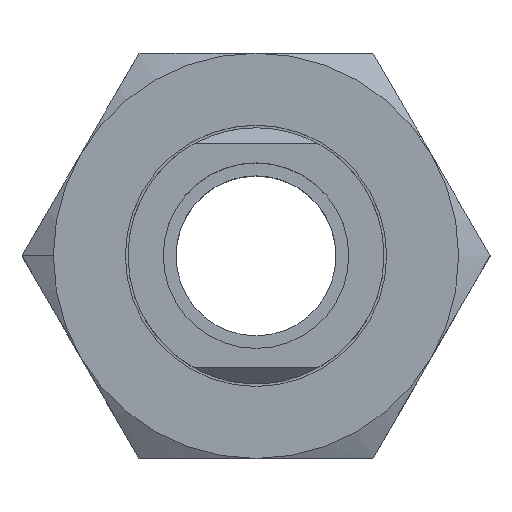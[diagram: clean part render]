
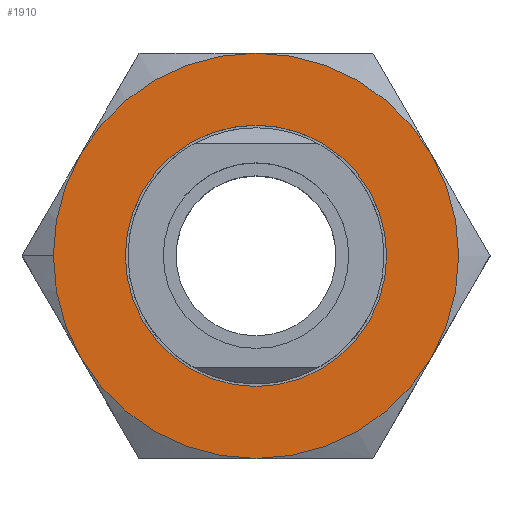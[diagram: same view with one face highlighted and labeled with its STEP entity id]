
A CAD part, top view. The second image highlights one B-rep face of the part: STEP entity #1910.
In plain terms, the highlighted planar face has unit normal (0, 0, 1).
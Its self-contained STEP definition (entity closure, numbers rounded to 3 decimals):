
#466 = DIRECTION ( 'NONE',  ( 1., 0., 0. ) ) ;
#467 = DIRECTION ( 'NONE',  ( 0., 0., 1. ) ) ;
#468 = AXIS2_PLACEMENT_3D ( 'NONE', #473, #467, #466 ) ;
#469 = CIRCLE ( 'NONE', #468, 12.25 ) ;
#473 = CARTESIAN_POINT ( 'NONE',  ( 0., 0., 9. ) ) ;
#476 = DIRECTION ( 'NONE',  ( -1., 0., 0. ) ) ;
#477 = DIRECTION ( 'NONE',  ( 0., 0., -1. ) ) ;
#478 = CARTESIAN_POINT ( 'NONE',  ( 0., 19., 9. ) ) ;
#479 = AXIS2_PLACEMENT_3D ( 'NONE', #478, #477, #476 ) ;
#481 = PLANE ( 'NONE',  #479 ) ;
#482 = FACE_OUTER_BOUND ( 'NONE', #1912, .T. ) ;
#483 = FACE_BOUND ( 'NONE', #1913, .T. ) ;
#790 = CARTESIAN_POINT ( 'NONE',  ( 12.25, 0., 9. ) ) ;
#791 = DIRECTION ( 'NONE',  ( 1., 0., 0. ) ) ;
#792 = DIRECTION ( 'NONE',  ( 0., 0., 1. ) ) ;
#793 = CARTESIAN_POINT ( 'NONE',  ( 0., 0., 9. ) ) ;
#794 = AXIS2_PLACEMENT_3D ( 'NONE', #793, #792, #791 ) ;
#795 = CIRCLE ( 'NONE', #794, 12.25 ) ;
#849 = CARTESIAN_POINT ( 'NONE',  ( -12.25, 0., 9. ) ) ;
#898 = DIRECTION ( 'NONE',  ( 1., 0., 0. ) ) ;
#899 = DIRECTION ( 'NONE',  ( 0., 0., 1. ) ) ;
#900 = CARTESIAN_POINT ( 'NONE',  ( 0., 0., 9. ) ) ;
#901 = AXIS2_PLACEMENT_3D ( 'NONE', #900, #899, #898 ) ;
#902 = CIRCLE ( 'NONE', #901, 19. ) ;
#907 = CARTESIAN_POINT ( 'NONE',  ( -19., 0., 9. ) ) ;
#908 = CARTESIAN_POINT ( 'NONE',  ( -16.454, -9.5, 9. ) ) ;
#909 = CIRCLE ( 'NONE', #966, 19. ) ;
#923 = CARTESIAN_POINT ( 'NONE',  ( 0., 19., 9. ) ) ;
#927 = CARTESIAN_POINT ( 'NONE',  ( 16.454, 9.5, 9. ) ) ;
#963 = DIRECTION ( 'NONE',  ( 1., 0., 0. ) ) ;
#964 = DIRECTION ( 'NONE',  ( 0., 0., 1. ) ) ;
#965 = CARTESIAN_POINT ( 'NONE',  ( 0., 0., 9. ) ) ;
#966 = AXIS2_PLACEMENT_3D ( 'NONE', #965, #964, #963 ) ;
#975 = CARTESIAN_POINT ( 'NONE',  ( 16.454, -9.5, 9. ) ) ;
#1000 = CARTESIAN_POINT ( 'NONE',  ( 0., -19., 9. ) ) ;
#1014 = DIRECTION ( 'NONE',  ( 1., 0., 0. ) ) ;
#1015 = DIRECTION ( 'NONE',  ( 0., 0., 1. ) ) ;
#1016 = CARTESIAN_POINT ( 'NONE',  ( 0., 0., 9. ) ) ;
#1017 = AXIS2_PLACEMENT_3D ( 'NONE', #1016, #1015, #1014 ) ;
#1028 = CIRCLE ( 'NONE', #1017, 19. ) ;
#1049 = DIRECTION ( 'NONE',  ( 1., 0., 0. ) ) ;
#1050 = DIRECTION ( 'NONE',  ( 0., 0., 1. ) ) ;
#1051 = CARTESIAN_POINT ( 'NONE',  ( 0., 0., 9. ) ) ;
#1052 = AXIS2_PLACEMENT_3D ( 'NONE', #1051, #1050, #1049 ) ;
#1053 = CIRCLE ( 'NONE', #1052, 19. ) ;
#1064 = DIRECTION ( 'NONE',  ( 1., 0., 0. ) ) ;
#1065 = DIRECTION ( 'NONE',  ( 0., 0., 1. ) ) ;
#1066 = CARTESIAN_POINT ( 'NONE',  ( 0., 0., 9. ) ) ;
#1073 = CIRCLE ( 'NONE', #1082, 19. ) ;
#1082 = AXIS2_PLACEMENT_3D ( 'NONE', #1066, #1065, #1064 ) ;
#1216 = DIRECTION ( 'NONE',  ( 1., 0., 0. ) ) ;
#1217 = DIRECTION ( 'NONE',  ( 0., 0., 1. ) ) ;
#1218 = CARTESIAN_POINT ( 'NONE',  ( 0., 0., 9. ) ) ;
#1219 = AXIS2_PLACEMENT_3D ( 'NONE', #1218, #1217, #1216 ) ;
#1224 = CIRCLE ( 'NONE', #1219, 19. ) ;
#1237 = CIRCLE ( 'NONE', #1285, 19. ) ;
#1238 = CARTESIAN_POINT ( 'NONE',  ( 0., 0., 9. ) ) ;
#1244 = CARTESIAN_POINT ( 'NONE',  ( -16.454, 9.5, 9. ) ) ;
#1283 = DIRECTION ( 'NONE',  ( 1., 0., 0. ) ) ;
#1284 = DIRECTION ( 'NONE',  ( 0., 0., 1. ) ) ;
#1285 = AXIS2_PLACEMENT_3D ( 'NONE', #1238, #1284, #1283 ) ;
#1901 = ORIENTED_EDGE ( 'NONE', *, *, #2199, .T. ) ;
#1906 = ORIENTED_EDGE ( 'NONE', *, *, #2227, .T. ) ;
#1907 = ORIENTED_EDGE ( 'NONE', *, *, #2341, .T. ) ;
#1908 = ORIENTED_EDGE ( 'NONE', *, *, #2357, .T. ) ;
#1909 = ORIENTED_EDGE ( 'NONE', *, *, #1917, .F. ) ;
#1910 = ADVANCED_FACE ( 'NONE', ( #483, #482 ), #481, .F. ) ;
#1911 = ORIENTED_EDGE ( 'NONE', *, *, #2152, .F. ) ;
#1912 = EDGE_LOOP ( 'NONE', ( #1906, #1907, #1908, #1901, #1929, #1928, #1926 ) ) ;
#1913 = EDGE_LOOP ( 'NONE', ( #1909, #1911 ) ) ;
#1917 = EDGE_CURVE ( 'NONE', #2153, #2157, #469, .T. ) ;
#1926 = ORIENTED_EDGE ( 'NONE', *, *, #2255, .T. ) ;
#1928 = ORIENTED_EDGE ( 'NONE', *, *, #2248, .T. ) ;
#1929 = ORIENTED_EDGE ( 'NONE', *, *, #2263, .T. ) ;
#2152 = EDGE_CURVE ( 'NONE', #2157, #2153, #795, .T. ) ;
#2153 = VERTEX_POINT ( 'NONE', #790 ) ;
#2157 = VERTEX_POINT ( 'NONE', #849 ) ;
#2194 = VERTEX_POINT ( 'NONE', #908 ) ;
#2196 = VERTEX_POINT ( 'NONE', #907 ) ;
#2199 = EDGE_CURVE ( 'NONE', #2196, #2194, #902, .T. ) ;
#2218 = VERTEX_POINT ( 'NONE', #927 ) ;
#2223 = VERTEX_POINT ( 'NONE', #923 ) ;
#2227 = EDGE_CURVE ( 'NONE', #2218, #2223, #909, .T. ) ;
#2242 = VERTEX_POINT ( 'NONE', #975 ) ;
#2248 = EDGE_CURVE ( 'NONE', #2252, #2242, #1028, .T. ) ;
#2252 = VERTEX_POINT ( 'NONE', #1000 ) ;
#2255 = EDGE_CURVE ( 'NONE', #2242, #2218, #1053, .T. ) ;
#2263 = EDGE_CURVE ( 'NONE', #2194, #2252, #1073, .T. ) ;
#2341 = EDGE_CURVE ( 'NONE', #2223, #2353, #1224, .T. ) ;
#2353 = VERTEX_POINT ( 'NONE', #1244 ) ;
#2357 = EDGE_CURVE ( 'NONE', #2353, #2196, #1237, .T. ) ;
